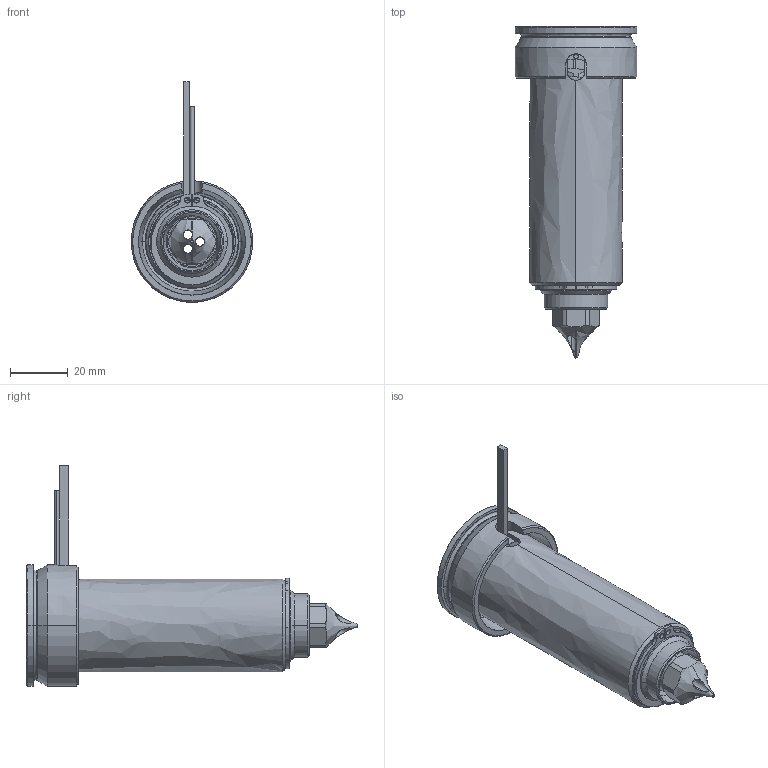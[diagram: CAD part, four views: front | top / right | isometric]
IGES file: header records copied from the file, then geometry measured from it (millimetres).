
Start section: SolidWorks IGES file using analytic representation for surfaces
Global section: file name: C:\Users\luca.EMPAD\Desktop\TEM\UGDL3613-M-A-1 [Øf=1.0 ØC=09].IGS; native system: SolidWorks 2012; preprocessor: SolidWorks 2012; author: luca; date: 120330.155654; units: millimetre
Bounding box: 42 x 114.8 x 76.3 mm (x, y, z)
Surface area: 37011.9 mm2 (no closed solid volume)
Topology: 0 solids, 0 shells, 130 faces, 2330 edges, 2330 vertices
Faces by surface type: revolution 81, bspline 49
